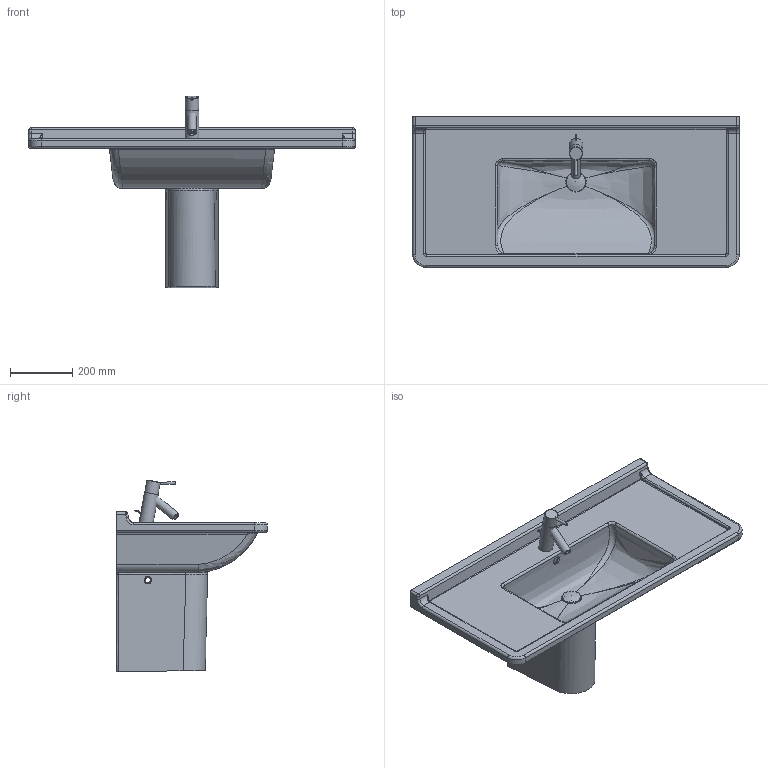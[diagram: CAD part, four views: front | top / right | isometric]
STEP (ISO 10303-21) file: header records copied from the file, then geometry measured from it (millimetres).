
FILE_DESCRIPTION((''),'2;1');
FILE_NAME('C:\Dokumente und Einstellungen\Huebner\Eigene Dateien\PRIV\3D\Starck3_Waschbecken\STEP\030410_086515.stp','2007-07-25T17:19:29',('Huebner'),(''),'Autodesk Inventor 11','Autodesk Inventor 11','');
FILE_SCHEMA(('AUTOMOTIVE_DESIGN { 1 0 10303 214 1 1 1 1 }'));
Length unit declared in the file: millimetre
Products named in the file (11): 030410_086515; 030410; Stopfen; Kelch; Baterie_Starck3; hebel1; Griff_2Starck3; Hebel3kurz; Halterstarck3; Neoperl_Starck3; 086515
Assembly tree (10 placements, depth 3):
  030410_086515
    030410
    Stopfen
    Kelch
    Baterie_Starck3
      hebel1
      Griff_2Starck3
      Hebel3kurz
      Halterstarck3
      Neoperl_Starck3
    086515
Bounding box: 1050 x 485 x 617.37 mm (x, y, z)
Volume: 21082335.3 mm3; surface area: 2192949.2 mm2
Topology: 9 solids, 9 shells, 225 faces, 540 edges, 325 vertices
Faces by surface type: cylinder 75, plane 64, bspline 56, torus 22, sphere 6, cone 2
Full cylindrical faces by diameter (mm): 8 x1, 9.368 x1, 15 x2, 16 x1, 18 x2, 20 x2, 28 x1, 35 x1, 42 x1, 44 x2, 45 x1, 52 x1, 60 x1, 75 x1
Entity records: 35996 total; most frequent: CARTESIAN_POINT 30976, ORIENTED_EDGE 988, DIRECTION 932, EDGE_CURVE 494, AXIS2_PLACEMENT_3D 376, VERTEX_POINT 317, EDGE_LOOP 274, FACE_OUTER_BOUND 225
